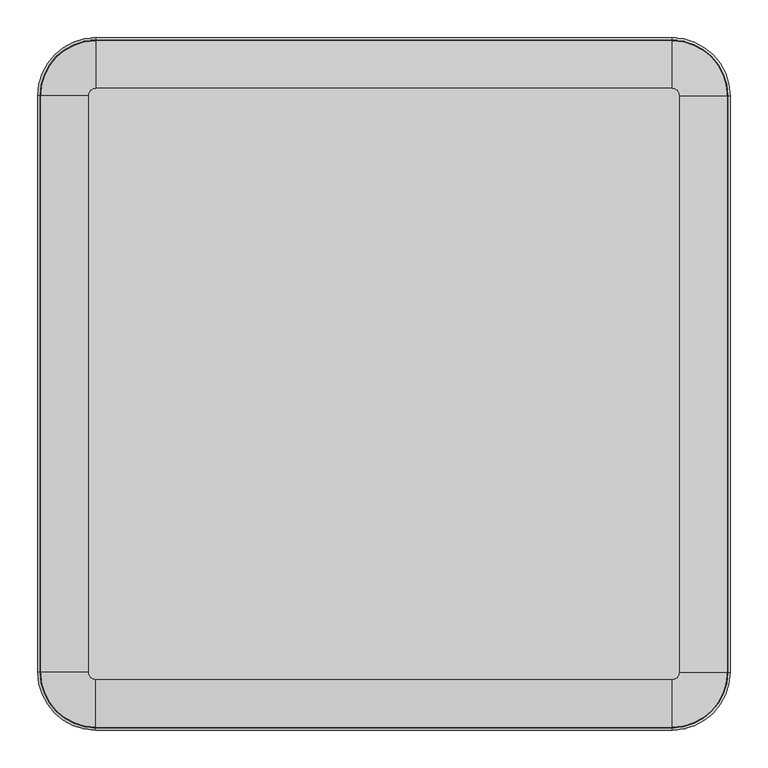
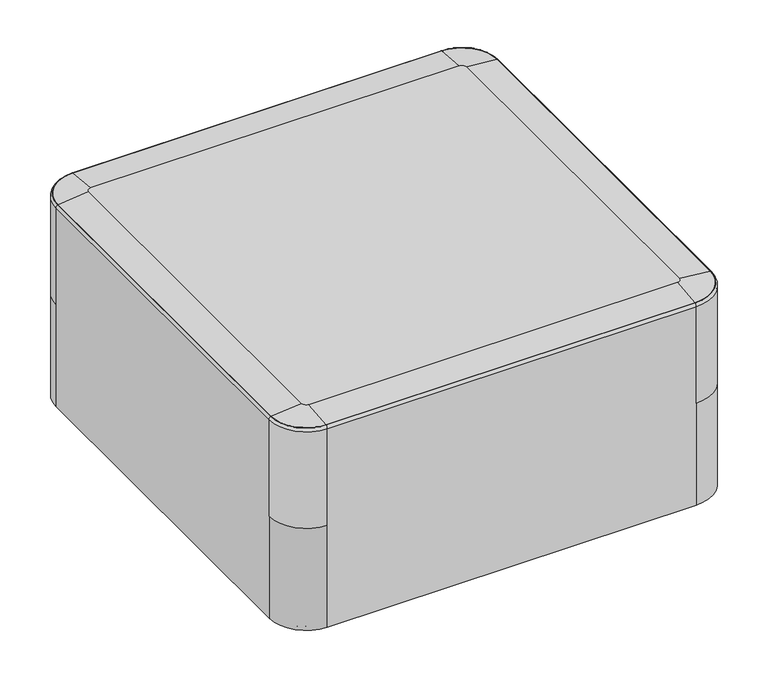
"""IFC4 building model written with IfcOpenShell, lengths in millimetres: furniture geometry, Indiana-Otty-Ottoman_Square : 840-3618SO."""

from ifc_helpers import new_model, si_unit, point, frame, origin, place, context, project, spatial, polyline, circle_curve, ellipse_curve, trimmed, source, transform, mapped, element, save
from ifc_brep_helpers import plane_surface, cylinder_surface, revolved_surface, advanced_brep


def furniture_806fa003(model_context):
    return source(origin(), model_context, "Body", "AdvancedBrep", [
        advanced_brep(
        [(0.0, -403.225, 19.8875), (0.0, -425.725, 19.8875), (0.0, -380.725, 19.8875), (0.0, -425.2765082, 4.2458827), (0.0, -381.1734918, 4.2458827), (0.0, -420.7913665, -0.1125), (0.0, -385.6586335, -0.1125), (0.0, -413.4926178, -0.1125), (0.0, -392.9573822, -0.1125), (0.0, -409.5981417, 3.9179615), (0.0, -396.8518583, 3.9179615), (0.0, -403.225, 3.9179615)],
        [
            (0, 1),
            (1, 2, circle_curve(frame((0.0, -403.225, 19.8875), z_axis=(0.0, 0.0, 1.0), x_axis=(0.0, -1.0, 0.0)), 22.5)),
            (2, 0),
            (2, 1, circle_curve(frame((0.0, -403.225, 19.8875), z_axis=(0.0, 0.0, 1.0), x_axis=(0.0, -1.0, 0.0)), 22.5)),
            (1, 3),
            (3, 4, circle_curve(frame((0.0, -403.225, 4.2458827), z_axis=(0.0, 0.0, 1.0), x_axis=(0.0, -1.0, 0.0)), 22.0515082)),
            (4, 2),
            (4, 3, circle_curve(frame((0.0, -403.225, 4.2458827), z_axis=(0.0, 0.0, 1.0), x_axis=(0.0, -1.0, 0.0)), 22.0515082)),
            (3, 5, circle_curve(frame((0.0, -420.7913665, 4.3744851), z_axis=(1.0, 0.0, 0.0), x_axis=(0.0, 1.0, 0.0)), 4.4869851)),
            (5, 6, circle_curve(frame((0.0, -403.225, -0.1125), z_axis=(0.0, 0.0, 1.0), x_axis=(0.0, -1.0, 0.0)), 17.5663665)),
            (6, 4, circle_curve(frame((0.0, -385.6586335, 4.3744851), z_axis=(1.0, 0.0, 0.0), x_axis=(0.0, -1.0, 0.0)), 4.4869851)),
            (6, 5, circle_curve(frame((0.0, -403.225, -0.1125), z_axis=(0.0, 0.0, 1.0), x_axis=(0.0, -1.0, 0.0)), 17.5663665)),
            (5, 7),
            (7, 8, circle_curve(frame((0.0, -403.225, -0.1125), z_axis=(0.0, 0.0, 1.0), x_axis=(0.0, -1.0, 0.0)), 10.2676178)),
            (8, 6),
            (8, 7, circle_curve(frame((0.0, -403.225, -0.1125), z_axis=(0.0, 0.0, 1.0), x_axis=(0.0, -1.0, 0.0)), 10.2676178)),
            (7, 9, circle_curve(frame((0.0, -413.4926178, 3.7842702), z_axis=(1.0, 0.0, 0.0), x_axis=(0.0, 1.0, 0.0)), 3.8967702)),
            (9, 10, circle_curve(frame((0.0, -403.225, 3.9179615), z_axis=(0.0, 0.0, 1.0), x_axis=(0.0, -1.0, 0.0)), 6.3731417)),
            (10, 8, circle_curve(frame((0.0, -392.9573822, 3.7842702), z_axis=(1.0, 0.0, 0.0), x_axis=(0.0, -1.0, 0.0)), 3.8967702)),
            (10, 9, circle_curve(frame((0.0, -403.225, 3.9179615), z_axis=(0.0, 0.0, 1.0), x_axis=(0.0, -1.0, 0.0)), 6.3731417)),
            (9, 11),
            (11, 10),
        ],
        [
            plane_surface(frame((0.0, -403.225, 19.8875), z_axis=(0.0, 0.0, 1.0), x_axis=(0.0, -1.0, 0.0))),
            revolved_surface(polyline([(0.0, -425.2765082, 4.2458827), (0.0, -425.725, 19.8875)]), (0.0, -403.225, 31.0803862), (0.0, 0.0, 1.0)),
            revolved_surface(trimmed(ellipse_curve(frame((0.0, -420.7913665, 4.3744851), z_axis=(-1.0, 0.0, 0.0), x_axis=(0.0, 1.0, 0.0)), 4.4869851, 4.4869851), [point((0.0, -420.7913665, -0.1125))], [point((0.0, -425.2765082, 4.2458827))], True, "CARTESIAN"), (0.0, -403.225, 31.0803862), (0.0, 0.0, 1.0)),
            plane_surface(frame((0.0, -403.225, -0.1125), z_axis=(0.0, 0.0, -1.0), x_axis=(0.0, -1.0, 0.0))),
            revolved_surface(trimmed(ellipse_curve(frame((0.0, -413.4926178, 3.7842702), z_axis=(-1.0, 0.0, 0.0), x_axis=(0.0, 1.0, 0.0)), 3.8967702, 3.8967702), [point((0.0, -409.5981417, 3.9179615))], [point((0.0, -413.4926178, -0.1125))], True, "CARTESIAN"), (0.0, -403.225, 31.0803862), (0.0, 0.0, 1.0)),
            plane_surface(frame((0.0, -403.225, 3.9179615), z_axis=(0.0, 0.0, -1.0), x_axis=(0.0, -1.0, 0.0))),
        ],
        [
            (0, [[1, 2, 3]]),
            (0, [[-3, 4, -1]]),
            (1, [[-2, 5, 6, 7]]),
            (1, [[-4, -7, 8, -5]]),
            (2, [[-6, 9, 10, 11]]),
            (2, [[-8, -11, 12, -9]]),
            (3, [[-10, 13, 14, 15]]),
            (3, [[-12, -15, 16, -13]]),
            (4, [[-14, 17, 18, 19]]),
            (4, [[-16, -19, 20, -17]]),
            (5, [[-18, 21, 22]]),
            (5, [[-20, -22, -21]]),
        ],
    ),
        advanced_brep(
        [(0.0, 403.225, 19.8875), (0.0, 380.725, 19.8875), (0.0, 425.725, 19.8875), (0.0, 381.1734918, 4.2458827), (0.0, 425.2765082, 4.2458827), (0.0, 385.6586335, -0.1125), (0.0, 420.7913665, -0.1125), (0.0, 392.9573822, -0.1125), (0.0, 413.4926178, -0.1125), (0.0, 396.8518583, 3.9179615), (0.0, 409.5981417, 3.9179615), (0.0, 403.225, 3.9179615)],
        [
            (0, 1),
            (1, 2, circle_curve(frame((0.0, 403.225, 19.8875), z_axis=(0.0, 0.0, 1.0), x_axis=(0.0, -1.0, 0.0)), 22.5)),
            (2, 0),
            (2, 1, circle_curve(frame((0.0, 403.225, 19.8875), z_axis=(0.0, 0.0, 1.0), x_axis=(0.0, -1.0, 0.0)), 22.5)),
            (1, 3),
            (3, 4, circle_curve(frame((0.0, 403.225, 4.2458827), z_axis=(0.0, 0.0, 1.0), x_axis=(0.0, -1.0, 0.0)), 22.0515082)),
            (4, 2),
            (4, 3, circle_curve(frame((0.0, 403.225, 4.2458827), z_axis=(0.0, 0.0, 1.0), x_axis=(0.0, -1.0, 0.0)), 22.0515082)),
            (3, 5, circle_curve(frame((0.0, 385.6586335, 4.3744851), z_axis=(1.0, 0.0, 0.0), x_axis=(0.0, 1.0, 0.0)), 4.4869851)),
            (5, 6, circle_curve(frame((0.0, 403.225, -0.1125), z_axis=(0.0, 0.0, 1.0), x_axis=(0.0, -1.0, 0.0)), 17.5663665)),
            (6, 4, circle_curve(frame((0.0, 420.7913665, 4.3744851), z_axis=(1.0, 0.0, 0.0), x_axis=(0.0, -1.0, 0.0)), 4.4869851)),
            (6, 5, circle_curve(frame((0.0, 403.225, -0.1125), z_axis=(0.0, 0.0, 1.0), x_axis=(0.0, -1.0, 0.0)), 17.5663665)),
            (5, 7),
            (7, 8, circle_curve(frame((0.0, 403.225, -0.1125), z_axis=(0.0, 0.0, 1.0), x_axis=(0.0, -1.0, 0.0)), 10.2676178)),
            (8, 6),
            (8, 7, circle_curve(frame((0.0, 403.225, -0.1125), z_axis=(0.0, 0.0, 1.0), x_axis=(0.0, -1.0, 0.0)), 10.2676178)),
            (7, 9, circle_curve(frame((0.0, 392.9573822, 3.7842702), z_axis=(1.0, 0.0, 0.0), x_axis=(0.0, 1.0, 0.0)), 3.8967702)),
            (9, 10, circle_curve(frame((0.0, 403.225, 3.9179615), z_axis=(0.0, 0.0, 1.0), x_axis=(0.0, -1.0, 0.0)), 6.3731417)),
            (10, 8, circle_curve(frame((0.0, 413.4926178, 3.7842702), z_axis=(1.0, 0.0, 0.0), x_axis=(0.0, -1.0, 0.0)), 3.8967702)),
            (10, 9, circle_curve(frame((0.0, 403.225, 3.9179615), z_axis=(0.0, 0.0, 1.0), x_axis=(0.0, -1.0, 0.0)), 6.3731417)),
            (9, 11),
            (11, 10),
        ],
        [
            plane_surface(frame((0.0, 403.225, 19.8875), z_axis=(0.0, 0.0, 1.0), x_axis=(0.0, -1.0, 0.0))),
            revolved_surface(polyline([(0.0, 381.1734918, 4.2458827), (0.0, 380.725, 19.8875)]), (0.0, 403.225, 31.0803862), (0.0, 0.0, 1.0)),
            revolved_surface(trimmed(ellipse_curve(frame((0.0, 385.6586335, 4.3744851), z_axis=(-1.0, 0.0, 0.0), x_axis=(0.0, 1.0, 0.0)), 4.4869851, 4.4869851), [point((0.0, 385.6586335, -0.1125))], [point((0.0, 381.1734918, 4.2458827))], True, "CARTESIAN"), (0.0, 403.225, 31.0803862), (0.0, 0.0, 1.0)),
            plane_surface(frame((0.0, 403.225, -0.1125), z_axis=(0.0, 0.0, -1.0), x_axis=(0.0, -1.0, 0.0))),
            revolved_surface(trimmed(ellipse_curve(frame((0.0, 392.9573822, 3.7842702), z_axis=(-1.0, 0.0, 0.0), x_axis=(0.0, 1.0, 0.0)), 3.8967702, 3.8967702), [point((0.0, 396.8518583, 3.9179615))], [point((0.0, 392.9573822, -0.1125))], True, "CARTESIAN"), (0.0, 403.225, 31.0803862), (0.0, 0.0, 1.0)),
            plane_surface(frame((0.0, 403.225, 3.9179615), z_axis=(0.0, 0.0, -1.0), x_axis=(0.0, -1.0, 0.0))),
        ],
        [
            (0, [[1, 2, 3]]),
            (0, [[-3, 4, -1]]),
            (1, [[-2, 5, 6, 7]]),
            (1, [[-4, -7, 8, -5]]),
            (2, [[-6, 9, 10, 11]]),
            (2, [[-8, -11, 12, -9]]),
            (3, [[-10, 13, 14, 15]]),
            (3, [[-12, -15, 16, -13]]),
            (4, [[-14, 17, 18, 19]]),
            (4, [[-16, -19, 20, -17]]),
            (5, [[-18, 21, 22]]),
            (5, [[-20, -22, -21]]),
        ],
    ),
        advanced_brep(
        [(403.225, -403.225, 19.8875), (403.225, -425.725, 19.8875), (403.225, -380.725, 19.8875), (403.225, -425.2765082, 4.2458827), (403.225, -381.1734918, 4.2458827), (403.225, -420.7913665, -0.1125), (403.225, -385.6586335, -0.1125), (403.225, -413.4926178, -0.1125), (403.225, -392.9573822, -0.1125), (403.225, -409.5981417, 3.9179615), (403.225, -396.8518583, 3.9179615), (403.225, -403.225, 3.9179615)],
        [
            (0, 1),
            (1, 2, circle_curve(frame((403.225, -403.225, 19.8875), z_axis=(0.0, 0.0, 1.0), x_axis=(0.0, -1.0, 0.0)), 22.5)),
            (2, 0),
            (2, 1, circle_curve(frame((403.225, -403.225, 19.8875), z_axis=(0.0, 0.0, 1.0), x_axis=(0.0, -1.0, 0.0)), 22.5)),
            (1, 3),
            (3, 4, circle_curve(frame((403.225, -403.225, 4.2458827), z_axis=(0.0, 0.0, 1.0), x_axis=(0.0, -1.0, 0.0)), 22.0515082)),
            (4, 2),
            (4, 3, circle_curve(frame((403.225, -403.225, 4.2458827), z_axis=(0.0, 0.0, 1.0), x_axis=(0.0, -1.0, 0.0)), 22.0515082)),
            (3, 5, circle_curve(frame((403.225, -420.7913665, 4.3744851), z_axis=(1.0, 0.0, 0.0), x_axis=(0.0, 1.0, 0.0)), 4.4869851)),
            (5, 6, circle_curve(frame((403.225, -403.225, -0.1125), z_axis=(0.0, 0.0, 1.0), x_axis=(0.0, -1.0, 0.0)), 17.5663665)),
            (6, 4, circle_curve(frame((403.225, -385.6586335, 4.3744851), z_axis=(1.0, 0.0, 0.0), x_axis=(0.0, -1.0, 0.0)), 4.4869851)),
            (6, 5, circle_curve(frame((403.225, -403.225, -0.1125), z_axis=(0.0, 0.0, 1.0), x_axis=(0.0, -1.0, 0.0)), 17.5663665)),
            (5, 7),
            (7, 8, circle_curve(frame((403.225, -403.225, -0.1125), z_axis=(0.0, 0.0, 1.0), x_axis=(0.0, -1.0, 0.0)), 10.2676178)),
            (8, 6),
            (8, 7, circle_curve(frame((403.225, -403.225, -0.1125), z_axis=(0.0, 0.0, 1.0), x_axis=(0.0, -1.0, 0.0)), 10.2676178)),
            (7, 9, circle_curve(frame((403.225, -413.4926178, 3.7842702), z_axis=(1.0, 0.0, 0.0), x_axis=(0.0, 1.0, 0.0)), 3.8967702)),
            (9, 10, circle_curve(frame((403.225, -403.225, 3.9179615), z_axis=(0.0, 0.0, 1.0), x_axis=(0.0, -1.0, 0.0)), 6.3731417)),
            (10, 8, circle_curve(frame((403.225, -392.9573822, 3.7842702), z_axis=(1.0, 0.0, 0.0), x_axis=(0.0, -1.0, 0.0)), 3.8967702)),
            (10, 9, circle_curve(frame((403.225, -403.225, 3.9179615), z_axis=(0.0, 0.0, 1.0), x_axis=(0.0, -1.0, 0.0)), 6.3731417)),
            (9, 11),
            (11, 10),
        ],
        [
            plane_surface(frame((403.225, -403.225, 19.8875), z_axis=(0.0, 0.0, 1.0), x_axis=(0.0, -1.0, 0.0))),
            revolved_surface(polyline([(403.225, -425.2765082, 4.2458827), (403.225, -425.725, 19.8875)]), (403.225, -403.225, 31.0803862), (0.0, 0.0, 1.0)),
            revolved_surface(trimmed(ellipse_curve(frame((403.225, -420.7913665, 4.3744851), z_axis=(-1.0, 0.0, 0.0), x_axis=(0.0, 1.0, 0.0)), 4.4869851, 4.4869851), [point((403.225, -420.7913665, -0.1125))], [point((403.225, -425.2765082, 4.2458827))], True, "CARTESIAN"), (403.225, -403.225, 31.0803862), (0.0, 0.0, 1.0)),
            plane_surface(frame((403.225, -403.225, -0.1125), z_axis=(0.0, 0.0, -1.0), x_axis=(0.0, -1.0, 0.0))),
            revolved_surface(trimmed(ellipse_curve(frame((403.225, -413.4926178, 3.7842702), z_axis=(-1.0, 0.0, 0.0), x_axis=(0.0, 1.0, 0.0)), 3.8967702, 3.8967702), [point((403.225, -409.5981417, 3.9179615))], [point((403.225, -413.4926178, -0.1125))], True, "CARTESIAN"), (403.225, -403.225, 31.0803862), (0.0, 0.0, 1.0)),
            plane_surface(frame((403.225, -403.225, 3.9179615), z_axis=(0.0, 0.0, -1.0), x_axis=(0.0, -1.0, 0.0))),
        ],
        [
            (0, [[1, 2, 3]]),
            (0, [[-3, 4, -1]]),
            (1, [[-2, 5, 6, 7]]),
            (1, [[-4, -7, 8, -5]]),
            (2, [[-6, 9, 10, 11]]),
            (2, [[-8, -11, 12, -9]]),
            (3, [[-10, 13, 14, 15]]),
            (3, [[-12, -15, 16, -13]]),
            (4, [[-14, 17, 18, 19]]),
            (4, [[-16, -19, 20, -17]]),
            (5, [[-18, 21, 22]]),
            (5, [[-20, -22, -21]]),
        ],
    ),
        advanced_brep(
        [(403.225, 403.225, 19.8875), (403.225, 380.725, 19.8875), (403.225, 425.725, 19.8875), (403.225, 381.1734918, 4.2458827), (403.225, 425.2765082, 4.2458827), (403.225, 385.6586335, -0.1125), (403.225, 420.7913665, -0.1125), (403.225, 392.9573822, -0.1125), (403.225, 413.4926178, -0.1125), (403.225, 396.8518583, 3.9179615), (403.225, 409.5981417, 3.9179615), (403.225, 403.225, 3.9179615)],
        [
            (0, 1),
            (1, 2, circle_curve(frame((403.225, 403.225, 19.8875), z_axis=(0.0, 0.0, 1.0), x_axis=(0.0, -1.0, 0.0)), 22.5)),
            (2, 0),
            (2, 1, circle_curve(frame((403.225, 403.225, 19.8875), z_axis=(0.0, 0.0, 1.0), x_axis=(0.0, -1.0, 0.0)), 22.5)),
            (1, 3),
            (3, 4, circle_curve(frame((403.225, 403.225, 4.2458827), z_axis=(0.0, 0.0, 1.0), x_axis=(0.0, -1.0, 0.0)), 22.0515082)),
            (4, 2),
            (4, 3, circle_curve(frame((403.225, 403.225, 4.2458827), z_axis=(0.0, 0.0, 1.0), x_axis=(0.0, -1.0, 0.0)), 22.0515082)),
            (3, 5, circle_curve(frame((403.225, 385.6586335, 4.3744851), z_axis=(1.0, 0.0, 0.0), x_axis=(0.0, 1.0, 0.0)), 4.4869851)),
            (5, 6, circle_curve(frame((403.225, 403.225, -0.1125), z_axis=(0.0, 0.0, 1.0), x_axis=(0.0, -1.0, 0.0)), 17.5663665)),
            (6, 4, circle_curve(frame((403.225, 420.7913665, 4.3744851), z_axis=(1.0, 0.0, 0.0), x_axis=(0.0, -1.0, 0.0)), 4.4869851)),
            (6, 5, circle_curve(frame((403.225, 403.225, -0.1125), z_axis=(0.0, 0.0, 1.0), x_axis=(0.0, -1.0, 0.0)), 17.5663665)),
            (5, 7),
            (7, 8, circle_curve(frame((403.225, 403.225, -0.1125), z_axis=(0.0, 0.0, 1.0), x_axis=(0.0, -1.0, 0.0)), 10.2676178)),
            (8, 6),
            (8, 7, circle_curve(frame((403.225, 403.225, -0.1125), z_axis=(0.0, 0.0, 1.0), x_axis=(0.0, -1.0, 0.0)), 10.2676178)),
            (7, 9, circle_curve(frame((403.225, 392.9573822, 3.7842702), z_axis=(1.0, 0.0, 0.0), x_axis=(0.0, 1.0, 0.0)), 3.8967702)),
            (9, 10, circle_curve(frame((403.225, 403.225, 3.9179615), z_axis=(0.0, 0.0, 1.0), x_axis=(0.0, -1.0, 0.0)), 6.3731417)),
            (10, 8, circle_curve(frame((403.225, 413.4926178, 3.7842702), z_axis=(1.0, 0.0, 0.0), x_axis=(0.0, -1.0, 0.0)), 3.8967702)),
            (10, 9, circle_curve(frame((403.225, 403.225, 3.9179615), z_axis=(0.0, 0.0, 1.0), x_axis=(0.0, -1.0, 0.0)), 6.3731417)),
            (9, 11),
            (11, 10),
        ],
        [
            plane_surface(frame((403.225, 403.225, 19.8875), z_axis=(0.0, 0.0, 1.0), x_axis=(0.0, -1.0, 0.0))),
            revolved_surface(polyline([(403.225, 381.1734918, 4.2458827), (403.225, 380.725, 19.8875)]), (403.225, 403.225, 31.0803862), (0.0, 0.0, 1.0)),
            revolved_surface(trimmed(ellipse_curve(frame((403.225, 385.6586335, 4.3744851), z_axis=(-1.0, 0.0, 0.0), x_axis=(0.0, 1.0, 0.0)), 4.4869851, 4.4869851), [point((403.225, 385.6586335, -0.1125))], [point((403.225, 381.1734918, 4.2458827))], True, "CARTESIAN"), (403.225, 403.225, 31.0803862), (0.0, 0.0, 1.0)),
            plane_surface(frame((403.225, 403.225, -0.1125), z_axis=(0.0, 0.0, -1.0), x_axis=(0.0, -1.0, 0.0))),
            revolved_surface(trimmed(ellipse_curve(frame((403.225, 392.9573822, 3.7842702), z_axis=(-1.0, 0.0, 0.0), x_axis=(0.0, 1.0, 0.0)), 3.8967702, 3.8967702), [point((403.225, 396.8518583, 3.9179615))], [point((403.225, 392.9573822, -0.1125))], True, "CARTESIAN"), (403.225, 403.225, 31.0803862), (0.0, 0.0, 1.0)),
            plane_surface(frame((403.225, 403.225, 3.9179615), z_axis=(0.0, 0.0, -1.0), x_axis=(0.0, -1.0, 0.0))),
        ],
        [
            (0, [[1, 2, 3]]),
            (0, [[-3, 4, -1]]),
            (1, [[-2, 5, 6, 7]]),
            (1, [[-4, -7, 8, -5]]),
            (2, [[-6, 9, 10, 11]]),
            (2, [[-8, -11, 12, -9]]),
            (3, [[-10, 13, 14, 15]]),
            (3, [[-12, -15, 16, -13]]),
            (4, [[-14, 17, 18, 19]]),
            (4, [[-16, -19, 20, -17]]),
            (5, [[-18, 21, 22]]),
            (5, [[-20, -22, -21]]),
        ],
    ),
        advanced_brep(
        [(-403.225, -403.225, 19.8875), (-403.225, -425.725, 19.8875), (-403.225, -380.725, 19.8875), (-403.225, -425.2765082, 4.2458827), (-403.225, -381.1734918, 4.2458827), (-403.225, -420.7913665, -0.1125), (-403.225, -385.6586335, -0.1125), (-403.225, -413.4926178, -0.1125), (-403.225, -392.9573822, -0.1125), (-403.225, -409.5981417, 3.9179615), (-403.225, -396.8518583, 3.9179615), (-403.225, -403.225, 3.9179615)],
        [
            (0, 1),
            (1, 2, circle_curve(frame((-403.225, -403.225, 19.8875), z_axis=(0.0, 0.0, 1.0), x_axis=(0.0, -1.0, 0.0)), 22.5)),
            (2, 0),
            (2, 1, circle_curve(frame((-403.225, -403.225, 19.8875), z_axis=(0.0, 0.0, 1.0), x_axis=(0.0, -1.0, 0.0)), 22.5)),
            (1, 3),
            (3, 4, circle_curve(frame((-403.225, -403.225, 4.2458827), z_axis=(0.0, 0.0, 1.0), x_axis=(0.0, -1.0, 0.0)), 22.0515082)),
            (4, 2),
            (4, 3, circle_curve(frame((-403.225, -403.225, 4.2458827), z_axis=(0.0, 0.0, 1.0), x_axis=(0.0, -1.0, 0.0)), 22.0515082)),
            (3, 5, circle_curve(frame((-403.225, -420.7913665, 4.3744851), z_axis=(1.0, 0.0, 0.0), x_axis=(0.0, 1.0, 0.0)), 4.4869851)),
            (5, 6, circle_curve(frame((-403.225, -403.225, -0.1125), z_axis=(0.0, 0.0, 1.0), x_axis=(0.0, -1.0, 0.0)), 17.5663665)),
            (6, 4, circle_curve(frame((-403.225, -385.6586335, 4.3744851), z_axis=(1.0, 0.0, 0.0), x_axis=(0.0, -1.0, 0.0)), 4.4869851)),
            (6, 5, circle_curve(frame((-403.225, -403.225, -0.1125), z_axis=(0.0, 0.0, 1.0), x_axis=(0.0, -1.0, 0.0)), 17.5663665)),
            (5, 7),
            (7, 8, circle_curve(frame((-403.225, -403.225, -0.1125), z_axis=(0.0, 0.0, 1.0), x_axis=(0.0, -1.0, 0.0)), 10.2676178)),
            (8, 6),
            (8, 7, circle_curve(frame((-403.225, -403.225, -0.1125), z_axis=(0.0, 0.0, 1.0), x_axis=(0.0, -1.0, 0.0)), 10.2676178)),
            (7, 9, circle_curve(frame((-403.225, -413.4926178, 3.7842702), z_axis=(1.0, 0.0, 0.0), x_axis=(0.0, 1.0, 0.0)), 3.8967702)),
            (9, 10, circle_curve(frame((-403.225, -403.225, 3.9179615), z_axis=(0.0, 0.0, 1.0), x_axis=(0.0, -1.0, 0.0)), 6.3731417)),
            (10, 8, circle_curve(frame((-403.225, -392.9573822, 3.7842702), z_axis=(1.0, 0.0, 0.0), x_axis=(0.0, -1.0, 0.0)), 3.8967702)),
            (10, 9, circle_curve(frame((-403.225, -403.225, 3.9179615), z_axis=(0.0, 0.0, 1.0), x_axis=(0.0, -1.0, 0.0)), 6.3731417)),
            (9, 11),
            (11, 10),
        ],
        [
            plane_surface(frame((-403.225, -403.225, 19.8875), z_axis=(0.0, 0.0, 1.0), x_axis=(0.0, -1.0, 0.0))),
            revolved_surface(polyline([(-403.225, -425.2765082, 4.2458827), (-403.225, -425.725, 19.8875)]), (-403.225, -403.225, 31.0803862), (0.0, 0.0, 1.0)),
            revolved_surface(trimmed(ellipse_curve(frame((-403.225, -420.7913665, 4.3744851), z_axis=(-1.0, 0.0, 0.0), x_axis=(0.0, 1.0, 0.0)), 4.4869851, 4.4869851), [point((-403.225, -420.7913665, -0.1125))], [point((-403.225, -425.2765082, 4.2458827))], True, "CARTESIAN"), (-403.225, -403.225, 31.0803862), (0.0, 0.0, 1.0)),
            plane_surface(frame((-403.225, -403.225, -0.1125), z_axis=(0.0, 0.0, -1.0), x_axis=(0.0, -1.0, 0.0))),
            revolved_surface(trimmed(ellipse_curve(frame((-403.225, -413.4926178, 3.7842702), z_axis=(-1.0, 0.0, 0.0), x_axis=(0.0, 1.0, 0.0)), 3.8967702, 3.8967702), [point((-403.225, -409.5981417, 3.9179615))], [point((-403.225, -413.4926178, -0.1125))], True, "CARTESIAN"), (-403.225, -403.225, 31.0803862), (0.0, 0.0, 1.0)),
            plane_surface(frame((-403.225, -403.225, 3.9179615), z_axis=(0.0, 0.0, -1.0), x_axis=(0.0, -1.0, 0.0))),
        ],
        [
            (0, [[1, 2, 3]]),
            (0, [[-3, 4, -1]]),
            (1, [[-2, 5, 6, 7]]),
            (1, [[-4, -7, 8, -5]]),
            (2, [[-6, 9, 10, 11]]),
            (2, [[-8, -11, 12, -9]]),
            (3, [[-10, 13, 14, 15]]),
            (3, [[-12, -15, 16, -13]]),
            (4, [[-14, 17, 18, 19]]),
            (4, [[-16, -19, 20, -17]]),
            (5, [[-18, 21, 22]]),
            (5, [[-20, -22, -21]]),
        ],
    ),
        advanced_brep(
        [(-403.225, 403.225, 19.8875), (-403.225, 380.725, 19.8875), (-403.225, 425.725, 19.8875), (-403.225, 381.1734918, 4.2458827), (-403.225, 425.2765082, 4.2458827), (-403.225, 385.6586335, -0.1125), (-403.225, 420.7913665, -0.1125), (-403.225, 392.9573822, -0.1125), (-403.225, 413.4926178, -0.1125), (-403.225, 396.8518583, 3.9179615), (-403.225, 409.5981417, 3.9179615), (-403.225, 403.225, 3.9179615)],
        [
            (0, 1),
            (1, 2, circle_curve(frame((-403.225, 403.225, 19.8875), z_axis=(0.0, 0.0, 1.0), x_axis=(0.0, -1.0, 0.0)), 22.5)),
            (2, 0),
            (2, 1, circle_curve(frame((-403.225, 403.225, 19.8875), z_axis=(0.0, 0.0, 1.0), x_axis=(0.0, -1.0, 0.0)), 22.5)),
            (1, 3),
            (3, 4, circle_curve(frame((-403.225, 403.225, 4.2458827), z_axis=(0.0, 0.0, 1.0), x_axis=(0.0, -1.0, 0.0)), 22.0515082)),
            (4, 2),
            (4, 3, circle_curve(frame((-403.225, 403.225, 4.2458827), z_axis=(0.0, 0.0, 1.0), x_axis=(0.0, -1.0, 0.0)), 22.0515082)),
            (3, 5, circle_curve(frame((-403.225, 385.6586335, 4.3744851), z_axis=(1.0, 0.0, 0.0), x_axis=(0.0, 1.0, 0.0)), 4.4869851)),
            (5, 6, circle_curve(frame((-403.225, 403.225, -0.1125), z_axis=(0.0, 0.0, 1.0), x_axis=(0.0, -1.0, 0.0)), 17.5663665)),
            (6, 4, circle_curve(frame((-403.225, 420.7913665, 4.3744851), z_axis=(1.0, 0.0, 0.0), x_axis=(0.0, -1.0, 0.0)), 4.4869851)),
            (6, 5, circle_curve(frame((-403.225, 403.225, -0.1125), z_axis=(0.0, 0.0, 1.0), x_axis=(0.0, -1.0, 0.0)), 17.5663665)),
            (5, 7),
            (7, 8, circle_curve(frame((-403.225, 403.225, -0.1125), z_axis=(0.0, 0.0, 1.0), x_axis=(0.0, -1.0, 0.0)), 10.2676178)),
            (8, 6),
            (8, 7, circle_curve(frame((-403.225, 403.225, -0.1125), z_axis=(0.0, 0.0, 1.0), x_axis=(0.0, -1.0, 0.0)), 10.2676178)),
            (7, 9, circle_curve(frame((-403.225, 392.9573822, 3.7842702), z_axis=(1.0, 0.0, 0.0), x_axis=(0.0, 1.0, 0.0)), 3.8967702)),
            (9, 10, circle_curve(frame((-403.225, 403.225, 3.9179615), z_axis=(0.0, 0.0, 1.0), x_axis=(0.0, -1.0, 0.0)), 6.3731417)),
            (10, 8, circle_curve(frame((-403.225, 413.4926178, 3.7842702), z_axis=(1.0, 0.0, 0.0), x_axis=(0.0, -1.0, 0.0)), 3.8967702)),
            (10, 9, circle_curve(frame((-403.225, 403.225, 3.9179615), z_axis=(0.0, 0.0, 1.0), x_axis=(0.0, -1.0, 0.0)), 6.3731417)),
            (9, 11),
            (11, 10),
        ],
        [
            plane_surface(frame((-403.225, 403.225, 19.8875), z_axis=(0.0, 0.0, 1.0), x_axis=(0.0, -1.0, 0.0))),
            revolved_surface(polyline([(-403.225, 381.1734918, 4.2458827), (-403.225, 380.725, 19.8875)]), (-403.225, 403.225, 31.0803862), (0.0, 0.0, 1.0)),
            revolved_surface(trimmed(ellipse_curve(frame((-403.225, 385.6586335, 4.3744851), z_axis=(-1.0, 0.0, 0.0), x_axis=(0.0, 1.0, 0.0)), 4.4869851, 4.4869851), [point((-403.225, 385.6586335, -0.1125))], [point((-403.225, 381.1734918, 4.2458827))], True, "CARTESIAN"), (-403.225, 403.225, 31.0803862), (0.0, 0.0, 1.0)),
            plane_surface(frame((-403.225, 403.225, -0.1125), z_axis=(0.0, 0.0, -1.0), x_axis=(0.0, -1.0, 0.0))),
            revolved_surface(trimmed(ellipse_curve(frame((-403.225, 392.9573822, 3.7842702), z_axis=(-1.0, 0.0, 0.0), x_axis=(0.0, 1.0, 0.0)), 3.8967702, 3.8967702), [point((-403.225, 396.8518583, 3.9179615))], [point((-403.225, 392.9573822, -0.1125))], True, "CARTESIAN"), (-403.225, 403.225, 31.0803862), (0.0, 0.0, 1.0)),
            plane_surface(frame((-403.225, 403.225, 3.9179615), z_axis=(0.0, 0.0, -1.0), x_axis=(0.0, -1.0, 0.0))),
        ],
        [
            (0, [[1, 2, 3]]),
            (0, [[-3, 4, -1]]),
            (1, [[-2, 5, 6, 7]]),
            (1, [[-4, -7, 8, -5]]),
            (2, [[-6, 9, 10, 11]]),
            (2, [[-8, -11, 12, -9]]),
            (3, [[-10, 13, 14, 15]]),
            (3, [[-12, -15, 16, -13]]),
            (4, [[-14, 17, 18, 19]]),
            (4, [[-16, -19, 20, -17]]),
            (5, [[-18, 21, 22]]),
            (5, [[-20, -22, -21]]),
        ],
    ),
        advanced_brep(
        [(453.2, 381.0, 451.1999966), (381.0, 453.2, 451.1999966), (381.0, 390.525, 457.2), (390.525, 381.0, 457.2), (453.9317905, 381.0, 451.4073863), (381.0, 453.9317905, 451.4073863), (457.2, 381.0, 445.2), (381.0, 457.2, 445.2), (457.2, 381.0, 234.35), (381.0, 457.2, 234.35), (390.525, -381.0, 457.2), (453.2, -381.0, 451.1999966), (453.9317905, -381.0, 451.4073863), (457.2, -381.0, 445.2), (457.2, -381.0, 234.35), (457.2, -381.0, 11.5), (457.2, 381.0, 11.5), (381.0, -390.525, 457.2), (381.0, -453.2, 451.1999966), (381.0, -453.9317905, 451.4073863), (381.0, -457.2, 445.2), (381.0, -457.2, 234.35), (-381.0, -390.525, 457.2), (-381.0, -453.2, 451.1999966), (-381.0, -453.9317905, 451.4073863), (-381.0, -457.2, 445.2), (-381.0, -457.2, 234.35), (-381.0, -457.2, 11.5), (381.0, -457.2, 11.5), (-390.525, -381.0, 457.2), (-453.2, -381.0, 451.1999966), (-453.9317905, -381.0, 451.4073863), (-457.2, -381.0, 445.2), (-457.2, -381.0, 234.35), (-390.525, 381.0, 457.2), (-453.2, 381.0, 451.1999966), (-453.9317905, 381.0, 451.4073863), (-457.2, 381.0, 445.2), (-457.2, 381.0, 234.35), (-457.2, 381.0, 11.5), (-457.2, -381.0, 11.5), (-381.0, 390.525, 457.2), (-381.0, 453.2, 451.1999966), (-381.0, 453.9317905, 451.4073863), (-381.0, 457.2, 445.2), (-381.0, 457.2, 234.35), (381.0, 457.2, 11.5), (-381.0, 457.2, 11.5), (-426.24375, -403.225, 11.5), (-380.20625, -403.225, 11.5), (-426.24375, 403.225, 11.5), (-380.20625, 403.225, 11.5), (380.20625, 403.225, 11.5), (426.24375, 403.225, 11.5), (380.20625, -403.225, 11.5), (426.24375, -403.225, 11.5), (-23.01875, 403.225, 11.5), (23.01875, 403.225, 11.5), (-23.01875, -403.225, 11.5), (23.01875, -403.225, 11.5), (-380.20625, -403.225, 19.834375), (-426.24375, -403.225, 19.834375), (-380.20625, 403.225, 19.834375), (-426.24375, 403.225, 19.834375), (380.20625, 403.225, 19.834375), (426.24375, 403.225, 19.834375), (380.20625, -403.225, 19.834375), (426.24375, -403.225, 19.834375), (-23.01875, 403.225, 19.834375), (23.01875, 403.225, 19.834375), (-23.01875, -403.225, 19.834375), (23.01875, -403.225, 19.834375)],
        [
            (0, 1, circle_curve(frame((381.0, 381.0, 451.1999966), z_axis=(0.0, 0.0, 1.0), x_axis=(0.0, 1.0, 0.0)), 72.2)),
            (1, 2, circle_curve(frame((381.0, 390.525, 126.8538794), z_axis=(1.0, 0.0, 0.0), x_axis=(0.0, 1.0, 0.0)), 330.3461206)),
            (2, 3, circle_curve(frame((381.0, 381.0, 457.2), z_axis=(0.0, 0.0, -1.0), x_axis=(0.0, 1.0, 0.0)), 9.525)),
            (3, 0, circle_curve(frame((390.525, 381.0, 126.8538794), z_axis=(0.0, 1.0, 0.0), x_axis=(1.0, 0.0, 0.0)), 330.3461206)),
            (0, 4, circle_curve(frame((453.6520185, 381.0, 450.999799), z_axis=(0.0, 1.0, 0.0), x_axis=(1.0, 0.0, 0.0)), 0.4943681)),
            (4, 5, circle_curve(frame((381.0, 381.0, 451.4073863), z_axis=(0.0, 0.0, 1.0), x_axis=(0.0, 1.0, 0.0)), 72.9317905)),
            (5, 1, circle_curve(frame((381.0, 453.6520185, 450.999799), z_axis=(1.0, 0.0, 0.0), x_axis=(0.0, 1.0, 0.0)), 0.4943681)),
            (4, 6, circle_curve(frame((449.6709786, 381.0, 445.2), z_axis=(0.0, 1.0, 0.0), x_axis=(1.0, 0.0, 0.0)), 7.5290214)),
            (6, 7, circle_curve(frame((381.0, 381.0, 445.2), z_axis=(0.0, 0.0, 1.0), x_axis=(0.0, 1.0, 0.0)), 76.2)),
            (7, 5, circle_curve(frame((381.0, 449.6709786, 445.2), z_axis=(1.0, 0.0, 0.0), x_axis=(0.0, 1.0, 0.0)), 7.5290214)),
            (6, 8),
            (8, 9, circle_curve(frame((381.0, 381.0, 234.35), z_axis=(0.0, 0.0, 1.0), x_axis=(0.0, 1.0, 0.0)), 76.2)),
            (9, 7),
            (3, 10),
            (10, 11, circle_curve(frame((390.525, -381.0, 126.8538794), z_axis=(0.0, 1.0, 0.0), x_axis=(1.0, 0.0, 0.0)), 330.3461206)),
            (11, 0),
            (11, 12, circle_curve(frame((453.6520185, -381.0, 450.999799), z_axis=(0.0, 1.0, 0.0), x_axis=(1.0, 0.0, 0.0)), 0.4943681)),
            (12, 4),
            (12, 13, circle_curve(frame((449.6709786, -381.0, 445.2), z_axis=(0.0, 1.0, 0.0), x_axis=(1.0, 0.0, 0.0)), 7.5290214)),
            (13, 6),
            (13, 14),
            (14, 15),
            (15, 16),
            (16, 8),
            (10, 17, circle_curve(frame((381.0, -381.0, 457.2), z_axis=(0.0, 0.0, -1.0), x_axis=(1.0, 0.0, 0.0)), 9.525)),
            (17, 18, circle_curve(frame((381.0, -390.525, 126.8538794), z_axis=(1.0, 0.0, 0.0), x_axis=(0.0, -1.0, 0.0)), 330.3461206)),
            (18, 11, circle_curve(frame((381.0, -381.0, 451.1999966), z_axis=(0.0, 0.0, 1.0), x_axis=(1.0, 0.0, 0.0)), 72.2)),
            (18, 19, circle_curve(frame((381.0, -453.6520185, 450.999799), z_axis=(1.0, 0.0, 0.0), x_axis=(0.0, -1.0, 0.0)), 0.4943681)),
            (19, 12, circle_curve(frame((381.0, -381.0, 451.4073863), z_axis=(0.0, 0.0, 1.0), x_axis=(1.0, 0.0, 0.0)), 72.9317905)),
            (19, 20, circle_curve(frame((381.0, -449.6709786, 445.2), z_axis=(1.0, 0.0, 0.0), x_axis=(0.0, -1.0, 0.0)), 7.5290214)),
            (20, 13, circle_curve(frame((381.0, -381.0, 445.2), z_axis=(0.0, 0.0, 1.0), x_axis=(1.0, 0.0, 0.0)), 76.2)),
            (20, 21),
            (21, 14, circle_curve(frame((381.0, -381.0, 234.35), z_axis=(0.0, 0.0, 1.0), x_axis=(1.0, 0.0, 0.0)), 76.2)),
            (17, 22),
            (22, 23, circle_curve(frame((-381.0, -390.525, 126.8538794), z_axis=(1.0, 0.0, 0.0), x_axis=(0.0, -1.0, 0.0)), 330.3461206)),
            (23, 18),
            (23, 24, circle_curve(frame((-381.0, -453.6520185, 450.999799), z_axis=(1.0, 0.0, 0.0), x_axis=(0.0, -1.0, 0.0)), 0.4943681)),
            (24, 19),
            (24, 25, circle_curve(frame((-381.0, -449.6709786, 445.2), z_axis=(1.0, 0.0, 0.0), x_axis=(0.0, -1.0, 0.0)), 7.5290214)),
            (25, 20),
            (25, 26),
            (26, 27),
            (27, 28),
            (28, 21),
            (22, 29, circle_curve(frame((-381.0, -381.0, 457.2), z_axis=(0.0, 0.0, -1.0), x_axis=(0.0, -1.0, 0.0)), 9.525)),
            (29, 30, circle_curve(frame((-390.525, -381.0, 126.8538794), z_axis=(0.0, -1.0, 0.0), x_axis=(-1.0, 0.0, 0.0)), 330.3461206)),
            (30, 23, circle_curve(frame((-381.0, -381.0, 451.1999966), z_axis=(0.0, 0.0, 1.0), x_axis=(0.0, -1.0, 0.0)), 72.2)),
            (30, 31, circle_curve(frame((-453.6520185, -381.0, 450.999799), z_axis=(0.0, -1.0, 0.0), x_axis=(-1.0, 0.0, 0.0)), 0.4943681)),
            (31, 24, circle_curve(frame((-381.0, -381.0, 451.4073863), z_axis=(0.0, 0.0, 1.0), x_axis=(0.0, -1.0, 0.0)), 72.9317905)),
            (31, 32, circle_curve(frame((-449.6709786, -381.0, 445.2), z_axis=(0.0, -1.0, 0.0), x_axis=(-1.0, 0.0, 0.0)), 7.5290214)),
            (32, 25, circle_curve(frame((-381.0, -381.0, 445.2), z_axis=(0.0, 0.0, 1.0), x_axis=(0.0, -1.0, 0.0)), 76.2)),
            (32, 33),
            (33, 26, circle_curve(frame((-381.0, -381.0, 234.35), z_axis=(0.0, 0.0, 1.0), x_axis=(0.0, -1.0, 0.0)), 76.2)),
            (29, 34),
            (34, 35, circle_curve(frame((-390.525, 381.0, 126.8538794), z_axis=(0.0, -1.0, 0.0), x_axis=(-1.0, 0.0, 0.0)), 330.3461206)),
            (35, 30),
            (35, 36, circle_curve(frame((-453.6520185, 381.0, 450.999799), z_axis=(0.0, -1.0, 0.0), x_axis=(-1.0, 0.0, 0.0)), 0.4943681)),
            (36, 31),
            (36, 37, circle_curve(frame((-449.6709786, 381.0, 445.2), z_axis=(0.0, -1.0, 0.0), x_axis=(-1.0, 0.0, 0.0)), 7.5290214)),
            (37, 32),
            (37, 38),
            (38, 39),
            (39, 40),
            (40, 33),
            (34, 41, circle_curve(frame((-381.0, 381.0, 457.2), z_axis=(0.0, 0.0, -1.0), x_axis=(-1.0, 0.0, 0.0)), 9.525)),
            (41, 42, circle_curve(frame((-381.0, 390.525, 126.8538794), z_axis=(-1.0, 0.0, 0.0), x_axis=(0.0, 1.0, 0.0)), 330.3461206)),
            (42, 35, circle_curve(frame((-381.0, 381.0, 451.1999966), z_axis=(0.0, 0.0, 1.0), x_axis=(-1.0, 0.0, 0.0)), 72.2)),
            (42, 43, circle_curve(frame((-381.0, 453.6520185, 450.999799), z_axis=(-1.0, 0.0, 0.0), x_axis=(0.0, 1.0, 0.0)), 0.4943681)),
            (43, 36, circle_curve(frame((-381.0, 381.0, 451.4073863), z_axis=(0.0, 0.0, 1.0), x_axis=(-1.0, 0.0, 0.0)), 72.9317905)),
            (43, 44, circle_curve(frame((-381.0, 449.6709786, 445.2), z_axis=(-1.0, 0.0, 0.0), x_axis=(0.0, 1.0, 0.0)), 7.5290214)),
            (44, 37, circle_curve(frame((-381.0, 381.0, 445.2), z_axis=(0.0, 0.0, 1.0), x_axis=(-1.0, 0.0, 0.0)), 76.2)),
            (44, 45),
            (45, 38, circle_curve(frame((-381.0, 381.0, 234.35), z_axis=(0.0, 0.0, 1.0), x_axis=(-1.0, 0.0, 0.0)), 76.2)),
            (2, 41),
            (1, 42),
            (5, 43),
            (7, 44),
            (9, 46),
            (46, 47),
            (47, 45),
            (46, 16, circle_curve(frame((381.0, 381.0, 11.5), z_axis=(0.0, 0.0, -1.0), x_axis=(1.0, 0.0, 0.0)), 76.2)),
            (15, 28, circle_curve(frame((381.0, -381.0, 11.5), z_axis=(0.0, 0.0, -1.0), x_axis=(1.0, 0.0, 0.0)), 76.2)),
            (27, 40, circle_curve(frame((-381.0, -381.0, 11.5), z_axis=(0.0, 0.0, -1.0), x_axis=(1.0, 0.0, 0.0)), 76.2)),
            (39, 47, circle_curve(frame((-381.0, 381.0, 11.5), z_axis=(0.0, 0.0, -1.0), x_axis=(1.0, 0.0, 0.0)), 76.2)),
            (48, 49, circle_curve(frame((-403.225, -403.225, 11.5), z_axis=(0.0, 0.0, 1.0), x_axis=(-1.0, 0.0, 0.0)), 23.01875)),
            (49, 48, circle_curve(frame((-403.225, -403.225, 11.5), z_axis=(0.0, 0.0, 1.0), x_axis=(-1.0, 0.0, 0.0)), 23.01875)),
            (50, 51, circle_curve(frame((-403.225, 403.225, 11.5), z_axis=(0.0, 0.0, 1.0), x_axis=(-1.0, 0.0, 0.0)), 23.01875)),
            (51, 50, circle_curve(frame((-403.225, 403.225, 11.5), z_axis=(0.0, 0.0, 1.0), x_axis=(-1.0, 0.0, 0.0)), 23.01875)),
            (52, 53, circle_curve(frame((403.225, 403.225, 11.5), z_axis=(0.0, 0.0, 1.0), x_axis=(-1.0, 0.0, 0.0)), 23.01875)),
            (53, 52, circle_curve(frame((403.225, 403.225, 11.5), z_axis=(0.0, 0.0, 1.0), x_axis=(-1.0, 0.0, 0.0)), 23.01875)),
            (54, 55, circle_curve(frame((403.225, -403.225, 11.5), z_axis=(0.0, 0.0, 1.0), x_axis=(-1.0, 0.0, 0.0)), 23.01875)),
            (55, 54, circle_curve(frame((403.225, -403.225, 11.5), z_axis=(0.0, 0.0, 1.0), x_axis=(-1.0, 0.0, 0.0)), 23.01875)),
            (56, 57, circle_curve(frame((0.0, 403.225, 11.5), z_axis=(0.0, 0.0, 1.0), x_axis=(-1.0, 0.0, 0.0)), 23.01875)),
            (57, 56, circle_curve(frame((0.0, 403.225, 11.5), z_axis=(0.0, 0.0, 1.0), x_axis=(-1.0, 0.0, 0.0)), 23.01875)),
            (58, 59, circle_curve(frame((0.0, -403.225, 11.5), z_axis=(0.0, 0.0, 1.0), x_axis=(-1.0, 0.0, 0.0)), 23.01875)),
            (59, 58, circle_curve(frame((0.0, -403.225, 11.5), z_axis=(0.0, 0.0, 1.0), x_axis=(-1.0, 0.0, 0.0)), 23.01875)),
            (60, 61, circle_curve(frame((-403.225, -403.225, 19.834375), z_axis=(0.0, 0.0, -1.0), x_axis=(-1.0, 0.0, 0.0)), 23.01875)),
            (61, 60, circle_curve(frame((-403.225, -403.225, 19.834375), z_axis=(0.0, 0.0, -1.0), x_axis=(-1.0, 0.0, 0.0)), 23.01875)),
            (48, 61),
            (60, 49),
            (62, 63, circle_curve(frame((-403.225, 403.225, 19.834375), z_axis=(0.0, 0.0, -1.0), x_axis=(-1.0, 0.0, 0.0)), 23.01875)),
            (63, 62, circle_curve(frame((-403.225, 403.225, 19.834375), z_axis=(0.0, 0.0, -1.0), x_axis=(-1.0, 0.0, 0.0)), 23.01875)),
            (50, 63),
            (62, 51),
            (52, 64),
            (64, 65, circle_curve(frame((403.225, 403.225, 19.834375), z_axis=(0.0, 0.0, 1.0), x_axis=(-1.0, 0.0, 0.0)), 23.01875)),
            (65, 53),
            (65, 64, circle_curve(frame((403.225, 403.225, 19.834375), z_axis=(0.0, 0.0, 1.0), x_axis=(-1.0, 0.0, 0.0)), 23.01875)),
            (54, 66),
            (66, 67, circle_curve(frame((403.225, -403.225, 19.834375), z_axis=(0.0, 0.0, 1.0), x_axis=(-1.0, 0.0, 0.0)), 23.01875)),
            (67, 55),
            (67, 66, circle_curve(frame((403.225, -403.225, 19.834375), z_axis=(0.0, 0.0, 1.0), x_axis=(-1.0, 0.0, 0.0)), 23.01875)),
            (56, 68),
            (68, 69, circle_curve(frame((0.0, 403.225, 19.834375), z_axis=(0.0, 0.0, 1.0), x_axis=(-1.0, 0.0, 0.0)), 23.01875)),
            (69, 57),
            (69, 68, circle_curve(frame((0.0, 403.225, 19.834375), z_axis=(0.0, 0.0, 1.0), x_axis=(-1.0, 0.0, 0.0)), 23.01875)),
            (58, 70),
            (70, 71, circle_curve(frame((0.0, -403.225, 19.834375), z_axis=(0.0, 0.0, 1.0), x_axis=(-1.0, 0.0, 0.0)), 23.01875)),
            (71, 59),
            (71, 70, circle_curve(frame((0.0, -403.225, 19.834375), z_axis=(0.0, 0.0, 1.0), x_axis=(-1.0, 0.0, 0.0)), 23.01875)),
        ],
        [
            revolved_surface(trimmed(ellipse_curve(frame((381.0, 390.525, 126.8538794), z_axis=(-1.0, 0.0, 0.0), x_axis=(0.0, 1.0, 0.0)), 330.3461206, 330.3461206), [point((381.0, 390.525, 457.2))], [point((381.0, 453.2, 451.1999966))], True, "CARTESIAN"), (381.0, 381.0, 0.0), (0.0, 0.0, -1.0)),
            revolved_surface(trimmed(ellipse_curve(frame((381.0, 453.6520185, 450.999799), z_axis=(-1.0, 0.0, 0.0), x_axis=(0.0, 1.0, 0.0)), 0.4943681, 0.4943681), [point((381.0, 453.2, 451.1999966))], [point((381.0, 453.9317905, 451.4073863))], True, "CARTESIAN"), (381.0, 381.0, 0.0), (0.0, 0.0, -1.0)),
            revolved_surface(trimmed(ellipse_curve(frame((381.0, 449.6709786, 445.2), z_axis=(-1.0, 0.0, 0.0), x_axis=(0.0, 1.0, 0.0)), 7.5290214, 7.5290214), [point((381.0, 453.9317905, 451.4073863))], [point((381.0, 457.2, 445.2))], True, "CARTESIAN"), (381.0, 381.0, 0.0), (0.0, 0.0, -1.0)),
            cylinder_surface(frame((381.0, 381.0, 0.0), z_axis=(0.0, 0.0, -1.0), x_axis=(0.0, 1.0, 0.0)), 76.2),
            cylinder_surface(frame((390.525, 381.0, 126.8538794), z_axis=(0.0, 1.0, 0.0), x_axis=(1.0, 0.0, 0.0)), 330.3461206),
            cylinder_surface(frame((453.6520185, 381.0, 450.999799), z_axis=(0.0, 1.0, 0.0), x_axis=(1.0, 0.0, 0.0)), 0.4943681),
            cylinder_surface(frame((449.6709786, 381.0, 445.2), z_axis=(0.0, 1.0, 0.0), x_axis=(1.0, 0.0, 0.0)), 7.5290214),
            plane_surface(frame((457.2, 381.0, 445.2), z_axis=(1.0, 0.0, 0.0), x_axis=(0.0, -1.0, 0.0))),
            revolved_surface(trimmed(ellipse_curve(frame((390.525, -381.0, 126.8538794), z_axis=(0.0, 1.0, 0.0), x_axis=(1.0, 0.0, 0.0)), 330.3461206, 330.3461206), [point((390.525, -381.0, 457.2))], [point((453.2, -381.0, 451.1999966))], True, "CARTESIAN"), (381.0, -381.0, 0.0), (0.0, 0.0, -1.0)),
            revolved_surface(trimmed(ellipse_curve(frame((453.6520185, -381.0, 450.999799), z_axis=(0.0, 1.0, 0.0), x_axis=(1.0, 0.0, 0.0)), 0.4943681, 0.4943681), [point((453.2, -381.0, 451.1999966))], [point((453.9317905, -381.0, 451.4073863))], True, "CARTESIAN"), (381.0, -381.0, 0.0), (0.0, 0.0, -1.0)),
            revolved_surface(trimmed(ellipse_curve(frame((449.6709786, -381.0, 445.2), z_axis=(0.0, 1.0, 0.0), x_axis=(1.0, 0.0, 0.0)), 7.5290214, 7.5290214), [point((453.9317905, -381.0, 451.4073863))], [point((457.2, -381.0, 445.2))], True, "CARTESIAN"), (381.0, -381.0, 0.0), (0.0, 0.0, -1.0)),
            cylinder_surface(frame((381.0, -381.0, 0.0), z_axis=(0.0, 0.0, -1.0), x_axis=(1.0, 0.0, 0.0)), 76.2),
            cylinder_surface(frame((381.0, -390.525, 126.8538794), z_axis=(1.0, 0.0, 0.0), x_axis=(0.0, -1.0, 0.0)), 330.3461206),
            cylinder_surface(frame((381.0, -453.6520185, 450.999799), z_axis=(1.0, 0.0, 0.0), x_axis=(0.0, -1.0, 0.0)), 0.4943681),
            cylinder_surface(frame((381.0, -449.6709786, 445.2), z_axis=(1.0, 0.0, 0.0), x_axis=(0.0, -1.0, 0.0)), 7.5290214),
            plane_surface(frame((381.0, -457.2, 445.2), z_axis=(0.0, -1.0, 0.0), x_axis=(-1.0, 0.0, 0.0))),
            revolved_surface(trimmed(ellipse_curve(frame((-381.0, -390.525, 126.8538794), z_axis=(1.0, 0.0, 0.0), x_axis=(0.0, -1.0, 0.0)), 330.3461206, 330.3461206), [point((-381.0, -390.525, 457.2))], [point((-381.0, -453.2, 451.1999966))], True, "CARTESIAN"), (-381.0, -381.0, 0.0), (0.0, 0.0, -1.0)),
            revolved_surface(trimmed(ellipse_curve(frame((-381.0, -453.6520185, 450.999799), z_axis=(1.0, 0.0, 0.0), x_axis=(0.0, -1.0, 0.0)), 0.4943681, 0.4943681), [point((-381.0, -453.2, 451.1999966))], [point((-381.0, -453.9317905, 451.4073863))], True, "CARTESIAN"), (-381.0, -381.0, 0.0), (0.0, 0.0, -1.0)),
            revolved_surface(trimmed(ellipse_curve(frame((-381.0, -449.6709786, 445.2), z_axis=(1.0, 0.0, 0.0), x_axis=(0.0, -1.0, 0.0)), 7.5290214, 7.5290214), [point((-381.0, -453.9317905, 451.4073863))], [point((-381.0, -457.2, 445.2))], True, "CARTESIAN"), (-381.0, -381.0, 0.0), (0.0, 0.0, -1.0)),
            cylinder_surface(frame((-381.0, -381.0, 0.0), z_axis=(0.0, 0.0, -1.0), x_axis=(0.0, -1.0, 0.0)), 76.2),
            cylinder_surface(frame((-390.525, -381.0, 126.8538794), z_axis=(0.0, -1.0, 0.0), x_axis=(-1.0, 0.0, 0.0)), 330.3461206),
            cylinder_surface(frame((-453.6520185, -381.0, 450.999799), z_axis=(0.0, -1.0, 0.0), x_axis=(-1.0, 0.0, 0.0)), 0.4943681),
            cylinder_surface(frame((-449.6709786, -381.0, 445.2), z_axis=(0.0, -1.0, 0.0), x_axis=(-1.0, 0.0, 0.0)), 7.5290214),
            plane_surface(frame((-457.2, -381.0, 445.2), z_axis=(-1.0, 0.0, 0.0), x_axis=(0.0, 1.0, 0.0))),
            revolved_surface(trimmed(ellipse_curve(frame((-390.525, 381.0, 126.8538794), z_axis=(0.0, -1.0, 0.0), x_axis=(-1.0, 0.0, 0.0)), 330.3461206, 330.3461206), [point((-390.525, 381.0, 457.2))], [point((-453.2, 381.0, 451.1999966))], True, "CARTESIAN"), (-381.0, 381.0, 0.0), (0.0, 0.0, -1.0)),
            revolved_surface(trimmed(ellipse_curve(frame((-453.6520185, 381.0, 450.999799), z_axis=(0.0, -1.0, 0.0), x_axis=(-1.0, 0.0, 0.0)), 0.4943681, 0.4943681), [point((-453.2, 381.0, 451.1999966))], [point((-453.9317905, 381.0, 451.4073863))], True, "CARTESIAN"), (-381.0, 381.0, 0.0), (0.0, 0.0, -1.0)),
            revolved_surface(trimmed(ellipse_curve(frame((-449.6709786, 381.0, 445.2), z_axis=(0.0, -1.0, 0.0), x_axis=(-1.0, 0.0, 0.0)), 7.5290214, 7.5290214), [point((-453.9317905, 381.0, 451.4073863))], [point((-457.2, 381.0, 445.2))], True, "CARTESIAN"), (-381.0, 381.0, 0.0), (0.0, 0.0, -1.0)),
            cylinder_surface(frame((-381.0, 381.0, 0.0), z_axis=(0.0, 0.0, -1.0), x_axis=(-1.0, 0.0, 0.0)), 76.2),
            plane_surface(frame((-381.0, 384.175, 457.2), z_axis=(0.0, 0.0, 1.0), x_axis=(1.0, 0.0, 0.0))),
            cylinder_surface(frame((-381.0, 390.525, 126.8538794), z_axis=(-1.0, 0.0, 0.0), x_axis=(0.0, 1.0, 0.0)), 330.3461206),
            cylinder_surface(frame((-381.0, 453.6520185, 450.999799), z_axis=(-1.0, 0.0, 0.0), x_axis=(0.0, 1.0, 0.0)), 0.4943681),
            cylinder_surface(frame((-381.0, 449.6709786, 445.2), z_axis=(-1.0, 0.0, 0.0), x_axis=(0.0, 1.0, 0.0)), 7.5290214),
            plane_surface(frame((-381.0, 457.2, 445.2), z_axis=(0.0, 1.0, 0.0), x_axis=(1.0, 0.0, 0.0))),
            plane_surface(frame((-381.0, 457.2, 11.5), z_axis=(0.0, 0.0, -1.0), x_axis=(1.0, 0.0, 0.0))),
            cylinder_surface(frame((-381.0, 381.0, 11.5), z_axis=(0.0, 0.0, 1.0), x_axis=(1.0, 0.0, 0.0)), 76.2),
            cylinder_surface(frame((-381.0, -381.0, 11.5), z_axis=(0.0, 0.0, 1.0), x_axis=(1.0, 0.0, 0.0)), 76.2),
            cylinder_surface(frame((381.0, -381.0, 11.5), z_axis=(0.0, 0.0, 1.0), x_axis=(1.0, 0.0, 0.0)), 76.2),
            cylinder_surface(frame((381.0, 381.0, 11.5), z_axis=(0.0, 0.0, 1.0), x_axis=(1.0, 0.0, 0.0)), 76.2),
            plane_surface(frame((-426.24375, -403.225, 19.834375), z_axis=(0.0, 0.0, -1.0), x_axis=(0.0, -1.0, 0.0))),
            revolved_surface(polyline([(-426.24375000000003, -403.225, 11.5), (-426.24375000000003, -403.225, 19.834375)]), (-403.225, -403.225, 19.834375), (0.0, 0.0, -1.0)),
            plane_surface(frame((-426.24375, 403.225, 19.834375), z_axis=(0.0, 0.0, -1.0), x_axis=(0.0, -1.0, 0.0))),
            revolved_surface(polyline([(-426.24375000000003, 403.225, 11.5), (-426.24375000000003, 403.225, 19.834375)]), (-403.225, 403.225, 19.834375), (0.0, 0.0, -1.0)),
            revolved_surface(polyline([(380.20625, 403.225, 11.5), (380.20625, 403.225, 19.834375)]), (403.225, 403.225, 19.834375), (0.0, 0.0, -1.0)),
            revolved_surface(polyline([(380.20625, -403.225, 11.5), (380.20625, -403.225, 19.834375)]), (403.225, -403.225, 19.834375), (0.0, 0.0, -1.0)),
            plane_surface(frame((380.20625, 403.225, 19.834375), z_axis=(0.0, 0.0, -1.0), x_axis=(0.0, -1.0, 0.0))),
            plane_surface(frame((380.20625, -403.225, 19.834375), z_axis=(0.0, 0.0, -1.0), x_axis=(0.0, -1.0, 0.0))),
            revolved_surface(polyline([(-23.01875, 403.225, 11.5), (-23.01875, 403.225, 19.834375)]), (0.0, 403.225, 19.834375), (0.0, 0.0, -1.0)),
            revolved_surface(polyline([(-23.01875, -403.225, 11.5), (-23.01875, -403.225, 19.834375)]), (0.0, -403.225, 19.834375), (0.0, 0.0, -1.0)),
            plane_surface(frame((-23.01875, -403.225, 19.834375), z_axis=(0.0, 0.0, -1.0), x_axis=(0.0, -1.0, 0.0))),
            plane_surface(frame((-23.01875, 403.225, 19.834375), z_axis=(0.0, 0.0, -1.0), x_axis=(0.0, -1.0, 0.0))),
        ],
        [
            (0, [[1, 2, 3, 4]]),
            (1, [[-1, 5, 6, 7]]),
            (2, [[-6, 8, 9, 10]]),
            (3, [[-9, 11, 12, 13]]),
            (4, [[-4, 14, 15, 16]]),
            (5, [[-5, -16, 17, 18]]),
            (6, [[-8, -18, 19, 20]]),
            (7, [[-11, -20, 21, 22, 23, 24]]),
            (8, [[-15, 25, 26, 27]]),
            (9, [[-17, -27, 28, 29]]),
            (10, [[-19, -29, 30, 31]]),
            (11, [[-21, -31, 32, 33]]),
            (12, [[-26, 34, 35, 36]]),
            (13, [[-28, -36, 37, 38]]),
            (14, [[-30, -38, 39, 40]]),
            (15, [[-32, -40, 41, 42, 43, 44]]),
            (16, [[-35, 45, 46, 47]]),
            (17, [[-37, -47, 48, 49]]),
            (18, [[-39, -49, 50, 51]]),
            (19, [[-41, -51, 52, 53]]),
            (20, [[-46, 54, 55, 56]]),
            (21, [[-48, -56, 57, 58]]),
            (22, [[-50, -58, 59, 60]]),
            (23, [[-52, -60, 61, 62, 63, 64]]),
            (24, [[-55, 65, 66, 67]]),
            (25, [[-57, -67, 68, 69]]),
            (26, [[-59, -69, 70, 71]]),
            (27, [[-61, -71, 72, 73]]),
            (28, [[-3, 74, -65, -54, -45, -34, -25, -14]]),
            (29, [[-2, 75, -66, -74]]),
            (30, [[-7, 76, -68, -75]]),
            (31, [[-10, 77, -70, -76]]),
            (32, [[-13, 78, 79, 80, -72, -77]]),
            (33, [[-79, 81, -23, 82, -43, 83, -63, 84], [85, 86], [87, 88], [89, 90], [91, 92], [93, 94], [95, 96]]),
            (34, [[-84, -62, -73, -80]]),
            (35, [[-83, -42, -53, -64]]),
            (36, [[-82, -22, -33, -44]]),
            (37, [[-81, -78, -12, -24]]),
            (38, [[97, 98]]),
            (39, [[-85, 99, -97, 100]]),
            (39, [[-86, -100, -98, -99]]),
            (40, [[101, 102]]),
            (41, [[-87, 103, -101, 104]]),
            (41, [[-88, -104, -102, -103]]),
            (42, [[-89, 105, 106, 107]]),
            (42, [[-90, -107, 108, -105]]),
            (43, [[-91, 109, 110, 111]]),
            (43, [[-92, -111, 112, -109]]),
            (44, [[-106, -108]]),
            (45, [[-110, -112]]),
            (46, [[-93, 113, 114, 115]]),
            (46, [[-94, -115, 116, -113]]),
            (47, [[-95, 117, 118, 119]]),
            (47, [[-96, -119, 120, -117]]),
            (48, [[-118, -120]]),
            (49, [[-114, -116]]),
        ],
    ),
    ])


if __name__ == "__main__":
    model = new_model("IFC4")
    model_context = context("Model", 3, world=origin())
    ifc_project = project(units=[si_unit("LENGTHUNIT", "METRE", prefix="MILLI")], contexts=[model_context])
    site = spatial("IfcSite", under=ifc_project)
    building = spatial("IfcBuilding", under=site)
    placement = place(None, origin())
    furniture_shape = furniture_806fa003(model_context)
    element("IfcFurniture", 1, ObjectType="Indiana-Otty-Ottoman_Square : 840-3618SO", at=placement, inside=building, context=model_context, shape_type="MappedRepresentation", body=[
        mapped(furniture_shape, transform((0.0, 0.0, 0.0), x_axis=(1.0, 0.0, 0.0), y_axis=(0.0, 1.0, 0.0), z_axis=(0.0, 0.0, 1.0))),
    ])
    save(model, "model.ifc")
